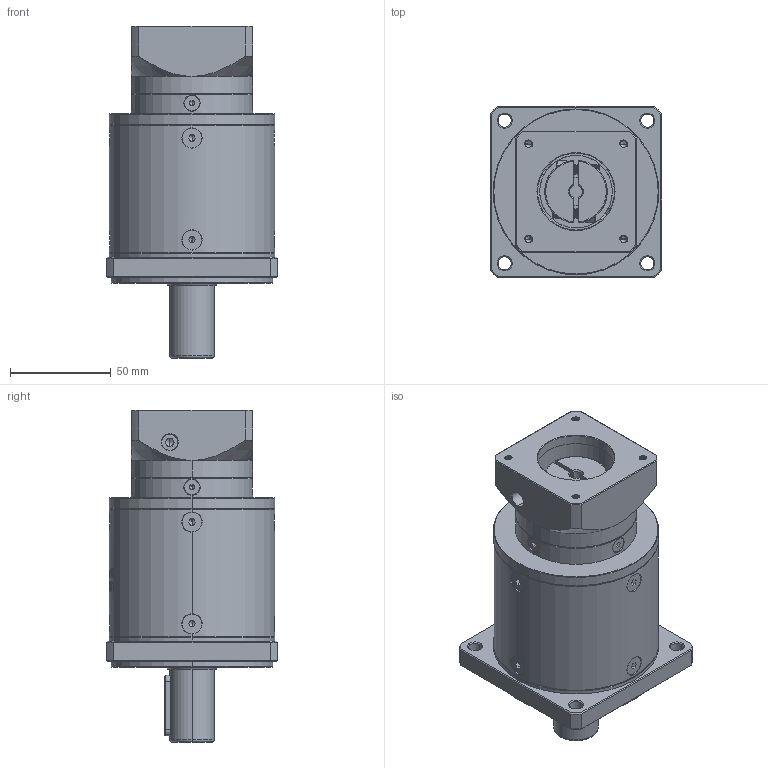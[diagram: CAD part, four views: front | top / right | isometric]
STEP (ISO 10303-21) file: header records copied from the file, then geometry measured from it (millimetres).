
FILE_DESCRIPTION (( 'STEP AP214' ), '1' );
FILE_NAME ('ZF080-D22-L3-P2-6.35-38.1-47.14X47.14-M4.step', '2023-08-19T06:57:52', ( '' ), ( '' ), 'SwSTEP 2.0', 'SolidWorks 2016', '' );
FILE_SCHEMA (( 'AUTOMOTIVE_DESIGN' ));
Length unit declared in the file: millimetre
Products named in the file (1): ZF080-D22-L3-P2-6.35-38.1-47.14X47.14-M4
Bounding box: 85 x 85 x 164.5 mm (x, y, z)
Volume: 580126.3 mm3; surface area: 72673.9 mm2
Topology: 18 solids, 18 shells, 2254 faces, 5938 edges, 3785 vertices
Faces by surface type: plane 1123, bspline 394, cylinder 375, cone 320, torus 42
Entity records: 116545 total; most frequent: CARTESIAN_POINT 40874, ORIENTED_EDGE 11800, DIRECTION 8874, EDGE_CURVE 5900, VERTEX_POINT 3785, LINE 3128, VECTOR 3128, AXIS2_PLACEMENT_3D 2873
